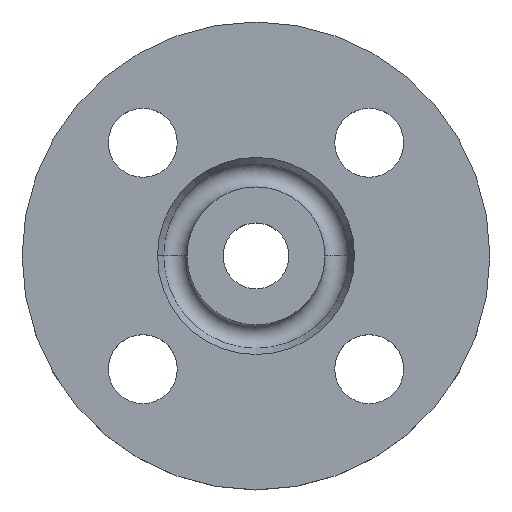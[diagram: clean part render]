
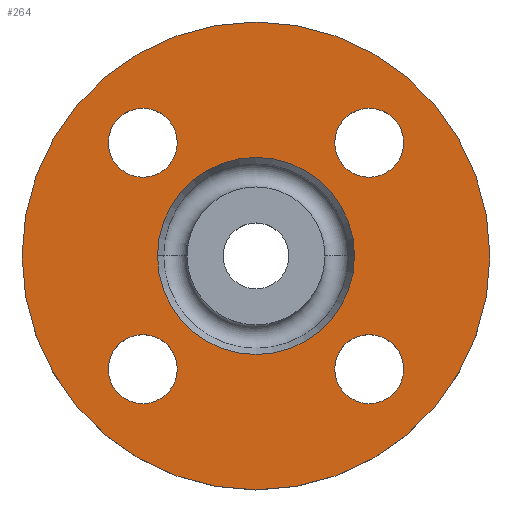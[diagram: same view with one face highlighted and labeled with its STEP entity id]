
A CAD part, top view. The second image highlights one B-rep face of the part: STEP entity #264.
In plain terms, the highlighted planar face has unit normal (0, 0, 1).
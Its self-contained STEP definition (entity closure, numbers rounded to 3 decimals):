
#1 = CARTESIAN_POINT ( 'NONE',  ( 47.5, 0., -2. ) ) ;
#13 = CARTESIAN_POINT ( 'NONE',  ( -29.981, 22.981, -2. ) ) ;
#18 = CARTESIAN_POINT ( 'NONE',  ( 29.981, 22.981, -2. ) ) ;
#40 = AXIS2_PLACEMENT_3D ( 'NONE', #764, #772, #774 ) ;
#42 = CIRCLE ( 'NONE', #797, 7. ) ;
#46 = AXIS2_PLACEMENT_3D ( 'NONE', #142, #141, #139 ) ;
#51 = CIRCLE ( 'NONE', #40, 47.5 ) ;
#58 = EDGE_CURVE ( 'NONE', #551, #507, #407, .T. ) ;
#59 = AXIS2_PLACEMENT_3D ( 'NONE', #753, #755, #757 ) ;
#71 = CIRCLE ( 'NONE', #405, 47.5 ) ;
#77 = CARTESIAN_POINT ( 'NONE',  ( -29.981, -22.981, -2. ) ) ;
#115 = CIRCLE ( 'NONE', #175, 20. ) ;
#116 = CIRCLE ( 'NONE', #677, 7. ) ;
#122 = EDGE_CURVE ( 'NONE', #373, #550, #668, .T. ) ;
#139 = DIRECTION ( 'NONE',  ( 1., 0., 0. ) ) ;
#141 = DIRECTION ( 'NONE',  ( 0., 0., -1. ) ) ;
#142 = CARTESIAN_POINT ( 'NONE',  ( 22.981, 22.981, -2. ) ) ;
#144 = EDGE_CURVE ( 'NONE', #507, #551, #115, .T. ) ;
#150 = AXIS2_PLACEMENT_3D ( 'NONE', #691, #692, #694 ) ;
#151 = CIRCLE ( 'NONE', #150, 7. ) ;
#156 = CARTESIAN_POINT ( 'NONE',  ( -20., 0., -2. ) ) ;
#158 = EDGE_CURVE ( 'NONE', #398, #554, #151, .T. ) ;
#166 = CARTESIAN_POINT ( 'NONE',  ( -22.981, -22.981, -2. ) ) ;
#168 = DIRECTION ( 'NONE',  ( 0., 0., -1. ) ) ;
#169 = DIRECTION ( 'NONE',  ( 1., 0., 0. ) ) ;
#175 = AXIS2_PLACEMENT_3D ( 'NONE', #663, #671, #673 ) ;
#176 = CARTESIAN_POINT ( 'NONE',  ( 15.981, 22.981, -2. ) ) ;
#191 = CIRCLE ( 'NONE', #59, 7. ) ;
#192 = CARTESIAN_POINT ( 'NONE',  ( 29.981, -22.981, -2. ) ) ;
#195 = EDGE_CURVE ( 'NONE', #550, #373, #343, .T. ) ;
#214 = EDGE_CURVE ( 'NONE', #523, #428, #71, .T. ) ;
#219 = EDGE_CURVE ( 'NONE', #324, #458, #191, .T. ) ;
#225 = EDGE_CURVE ( 'NONE', #428, #523, #51, .T. ) ;
#241 = EDGE_CURVE ( 'NONE', #554, #398, #42, .T. ) ;
#264 = ADVANCED_FACE ( 'NONE', ( #796, #798, #800, #801, #802, #803 ), #804, .T. ) ;
#272 = CARTESIAN_POINT ( 'NONE',  ( 15.981, -22.981, -2. ) ) ;
#277 = CARTESIAN_POINT ( 'NONE',  ( 20., 0., -2. ) ) ;
#279 = CARTESIAN_POINT ( 'NONE',  ( -15.981, 22.981, -2. ) ) ;
#285 = AXIS2_PLACEMENT_3D ( 'NONE', #644, #645, #647 ) ;
#297 = CARTESIAN_POINT ( 'NONE',  ( -47.5, 0., -2. ) ) ;
#319 = AXIS2_PLACEMENT_3D ( 'NONE', #806, #807, #808 ) ;
#321 = CIRCLE ( 'NONE', #610, 7. ) ;
#324 = VERTEX_POINT ( 'NONE', #77 ) ;
#343 = CIRCLE ( 'NONE', #346, 7. ) ;
#344 = EDGE_CURVE ( 'NONE', #458, #324, #116, .T. ) ;
#346 = AXIS2_PLACEMENT_3D ( 'NONE', #714, #716, #720 ) ;
#365 = VERTEX_POINT ( 'NONE', #18 ) ;
#369 = ORIENTED_EDGE ( 'NONE', *, *, #158, .T. ) ;
#373 = VERTEX_POINT ( 'NONE', #13 ) ;
#374 = ORIENTED_EDGE ( 'NONE', *, *, #241, .T. ) ;
#375 = ORIENTED_EDGE ( 'NONE', *, *, #344, .T. ) ;
#376 = ORIENTED_EDGE ( 'NONE', *, *, #219, .T. ) ;
#379 = ORIENTED_EDGE ( 'NONE', *, *, #195, .T. ) ;
#381 = ORIENTED_EDGE ( 'NONE', *, *, #122, .T. ) ;
#383 = ORIENTED_EDGE ( 'NONE', *, *, #649, .T. ) ;
#384 = ORIENTED_EDGE ( 'NONE', *, *, #752, .T. ) ;
#387 = ORIENTED_EDGE ( 'NONE', *, *, #58, .T. ) ;
#389 = EDGE_LOOP ( 'NONE', ( #387, #393 ) ) ;
#390 = VERTEX_POINT ( 'NONE', #176 ) ;
#393 = ORIENTED_EDGE ( 'NONE', *, *, #144, .T. ) ;
#394 = ORIENTED_EDGE ( 'NONE', *, *, #225, .F. ) ;
#396 = ORIENTED_EDGE ( 'NONE', *, *, #214, .F. ) ;
#398 = VERTEX_POINT ( 'NONE', #192 ) ;
#405 = AXIS2_PLACEMENT_3D ( 'NONE', #742, #743, #745 ) ;
#407 = CIRCLE ( 'NONE', #595, 20. ) ;
#428 = VERTEX_POINT ( 'NONE', #1 ) ;
#458 = VERTEX_POINT ( 'NONE', #773 ) ;
#459 = EDGE_LOOP ( 'NONE', ( #394, #396 ) ) ;
#507 = VERTEX_POINT ( 'NONE', #156 ) ;
#515 = EDGE_LOOP ( 'NONE', ( #379, #381 ) ) ;
#523 = VERTEX_POINT ( 'NONE', #297 ) ;
#541 = EDGE_LOOP ( 'NONE', ( #375, #376 ) ) ;
#542 = EDGE_LOOP ( 'NONE', ( #369, #374 ) ) ;
#545 = EDGE_LOOP ( 'NONE', ( #383, #384 ) ) ;
#550 = VERTEX_POINT ( 'NONE', #279 ) ;
#551 = VERTEX_POINT ( 'NONE', #277 ) ;
#554 = VERTEX_POINT ( 'NONE', #272 ) ;
#595 = AXIS2_PLACEMENT_3D ( 'NONE', #596, #597, #598 ) ;
#596 = CARTESIAN_POINT ( 'NONE',  ( 0., 0., -2. ) ) ;
#597 = DIRECTION ( 'NONE',  ( 0., 0., -1. ) ) ;
#598 = DIRECTION ( 'NONE',  ( -1., 0., 0. ) ) ;
#610 = AXIS2_PLACEMENT_3D ( 'NONE', #775, #770, #769 ) ;
#644 = CARTESIAN_POINT ( 'NONE',  ( -22.981, 22.981, -2. ) ) ;
#645 = DIRECTION ( 'NONE',  ( 0., 0., -1. ) ) ;
#647 = DIRECTION ( 'NONE',  ( 1., 0., 0. ) ) ;
#649 = EDGE_CURVE ( 'NONE', #365, #390, #651, .T. ) ;
#651 = CIRCLE ( 'NONE', #46, 7. ) ;
#663 = CARTESIAN_POINT ( 'NONE',  ( 0., 0., -2. ) ) ;
#668 = CIRCLE ( 'NONE', #285, 7. ) ;
#671 = DIRECTION ( 'NONE',  ( 0., 0., -1. ) ) ;
#673 = DIRECTION ( 'NONE',  ( -1., 0., 0. ) ) ;
#677 = AXIS2_PLACEMENT_3D ( 'NONE', #166, #168, #169 ) ;
#691 = CARTESIAN_POINT ( 'NONE',  ( 22.981, -22.981, -2. ) ) ;
#692 = DIRECTION ( 'NONE',  ( 0., 0., -1. ) ) ;
#694 = DIRECTION ( 'NONE',  ( 1., 0., 0. ) ) ;
#714 = CARTESIAN_POINT ( 'NONE',  ( -22.981, 22.981, -2. ) ) ;
#716 = DIRECTION ( 'NONE',  ( 0., 0., -1. ) ) ;
#720 = DIRECTION ( 'NONE',  ( 1., 0., 0. ) ) ;
#742 = CARTESIAN_POINT ( 'NONE',  ( 0., 0., -2. ) ) ;
#743 = DIRECTION ( 'NONE',  ( 0., 0., -1. ) ) ;
#745 = DIRECTION ( 'NONE',  ( -1., 0., 0. ) ) ;
#752 = EDGE_CURVE ( 'NONE', #390, #365, #321, .T. ) ;
#753 = CARTESIAN_POINT ( 'NONE',  ( -22.981, -22.981, -2. ) ) ;
#755 = DIRECTION ( 'NONE',  ( 0., 0., -1. ) ) ;
#757 = DIRECTION ( 'NONE',  ( 1., 0., 0. ) ) ;
#764 = CARTESIAN_POINT ( 'NONE',  ( 0., 0., -2. ) ) ;
#769 = DIRECTION ( 'NONE',  ( 1., 0., 0. ) ) ;
#770 = DIRECTION ( 'NONE',  ( 0., 0., -1. ) ) ;
#772 = DIRECTION ( 'NONE',  ( 0., 0., -1. ) ) ;
#773 = CARTESIAN_POINT ( 'NONE',  ( -15.981, -22.981, -2. ) ) ;
#774 = DIRECTION ( 'NONE',  ( -1., 0., 0. ) ) ;
#775 = CARTESIAN_POINT ( 'NONE',  ( 22.981, 22.981, -2. ) ) ;
#785 = CARTESIAN_POINT ( 'NONE',  ( 22.981, -22.981, -2. ) ) ;
#787 = DIRECTION ( 'NONE',  ( 0., 0., -1. ) ) ;
#788 = DIRECTION ( 'NONE',  ( 1., 0., 0. ) ) ;
#796 = FACE_BOUND ( 'NONE', #542, .T. ) ;
#797 = AXIS2_PLACEMENT_3D ( 'NONE', #785, #787, #788 ) ;
#798 = FACE_BOUND ( 'NONE', #541, .T. ) ;
#800 = FACE_BOUND ( 'NONE', #515, .T. ) ;
#801 = FACE_BOUND ( 'NONE', #545, .T. ) ;
#802 = FACE_BOUND ( 'NONE', #389, .T. ) ;
#803 = FACE_OUTER_BOUND ( 'NONE', #459, .T. ) ;
#804 = PLANE ( 'NONE',  #319 ) ;
#806 = CARTESIAN_POINT ( 'NONE',  ( 47.5, 0., -2. ) ) ;
#807 = DIRECTION ( 'NONE',  ( 0., 0., 1. ) ) ;
#808 = DIRECTION ( 'NONE',  ( 1., 0., 0. ) ) ;
